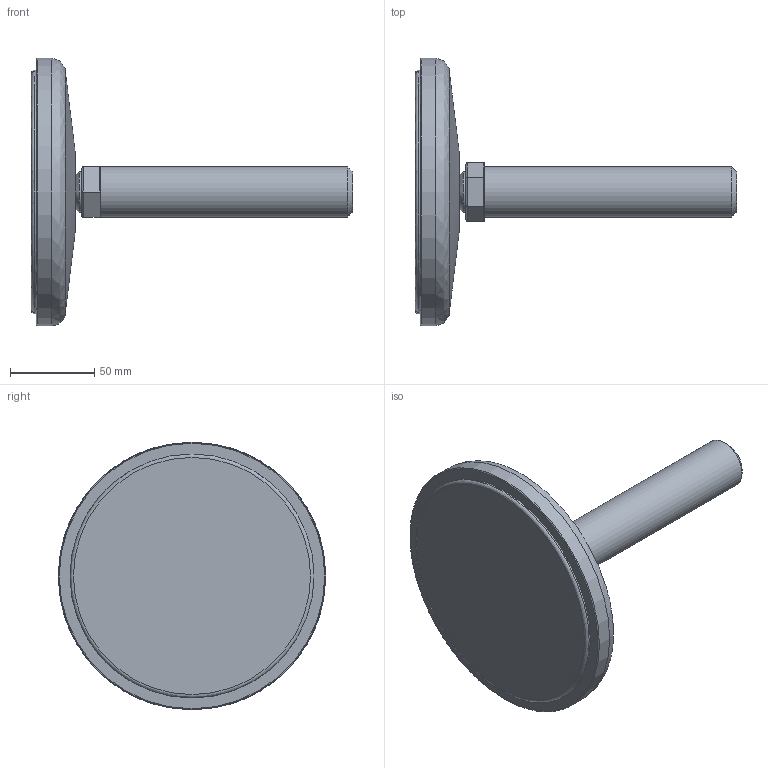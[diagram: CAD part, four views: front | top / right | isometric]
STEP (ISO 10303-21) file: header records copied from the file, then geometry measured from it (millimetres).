
FILE_DESCRIPTION(('STEP AP203'),'2;1');
FILE_NAME('11447-30.stp','2015-05-28T09:50:48',(''),(''),'2008.1.107','THINKDESIGN','');
FILE_SCHEMA(('CONFIG_CONTROL_DESIGN'));
Length unit declared in the file: millimetre
Bounding box: 191 x 159 x 159 mm (x, y, z)
Volume: 539877.7 mm3; surface area: 101333.1 mm2
Topology: 6 solids, 6 shells, 48 faces, 109 edges, 74 vertices
Faces by surface type: plane 25, cylinder 15, bspline 8
Full cylindrical faces by diameter (mm): 11 x1, 24 x2, 30 x1, 145 x1, 159 x1
Entity records: 2010 total; most frequent: CARTESIAN_POINT 828, DIRECTION 228, ORIENTED_EDGE 218, EDGE_CURVE 109, AXIS2_PLACEMENT_3D 87, VERTEX_POINT 74, VECTOR 54, LINE 54
